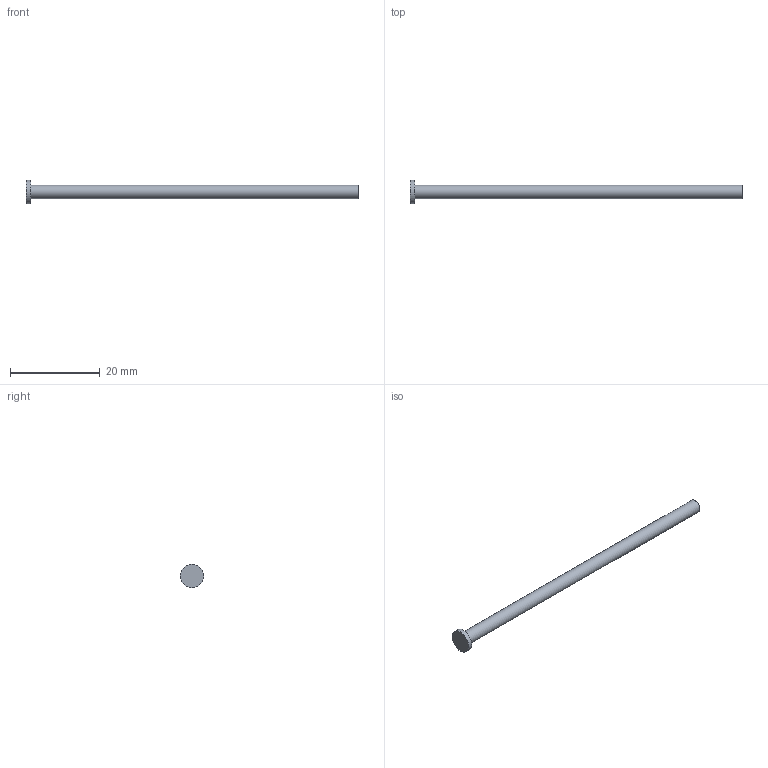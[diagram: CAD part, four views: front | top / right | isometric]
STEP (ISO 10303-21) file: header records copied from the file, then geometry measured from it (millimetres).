
FILE_DESCRIPTION(('FreeCAD Model'),'2;1');
FILE_NAME('Open CASCADE Shape Model','2026-11-13T18:42:42',('FreeCAD'),( 'FreeCAD'),'Open CASCADE STEP processor 7.8','FreeCAD','Unknown');
FILE_SCHEMA(('AUTOMOTIVE_DESIGN { 1 0 10303 214 1 1 1 1 }'));
Length unit declared in the file: millimetre
Products named in the file (1): Open CASCADE STEP translator 7.8 26
Bounding box: 73.8 x 5.2 x 5.2 mm (x, y, z)
Volume: 526.5 mm3; surface area: 768.6 mm2
Topology: 1 solids, 1 shells, 7 faces, 9 edges, 6 vertices
Faces by surface type: plane 4, cylinder 3
Full cylindrical faces by diameter (mm): 1.6 x1, 3 x1, 5.2 x1
Entity records: 159 total; most frequent: DIRECTION 31, CARTESIAN_POINT 23, ORIENTED_EDGE 18, AXIS2_PLACEMENT_3D 14, FACE_BOUND 9, EDGE_LOOP 9, EDGE_CURVE 9, ADVANCED_FACE 7
